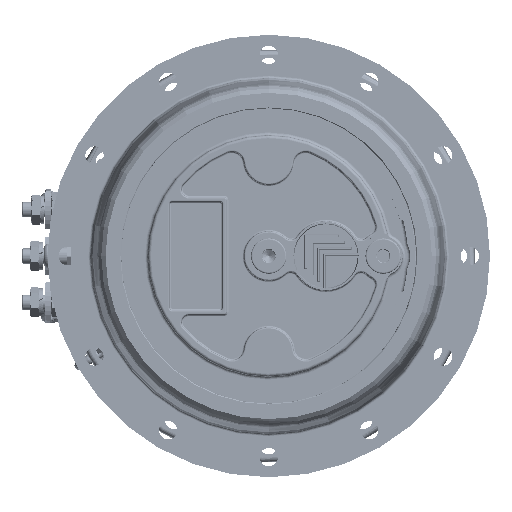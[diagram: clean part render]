
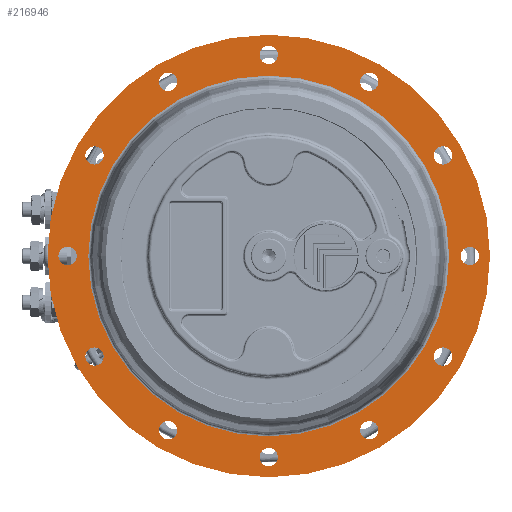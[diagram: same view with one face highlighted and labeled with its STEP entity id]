
A CAD part, left-side view. The second image highlights one B-rep face of the part: STEP entity #216946.
In plain terms, the highlighted planar face has unit normal (-1, 0, 0).
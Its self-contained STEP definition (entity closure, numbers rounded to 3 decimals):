
#5271=FACE_BOUND('',#32557,.T.);
#5272=FACE_BOUND('',#32558,.T.);
#5273=FACE_BOUND('',#32559,.T.);
#5274=FACE_BOUND('',#32560,.T.);
#5275=FACE_BOUND('',#32561,.T.);
#5276=FACE_BOUND('',#32562,.T.);
#5277=FACE_BOUND('',#32563,.T.);
#5278=FACE_BOUND('',#32564,.T.);
#5279=FACE_BOUND('',#32565,.T.);
#5280=FACE_BOUND('',#32566,.T.);
#5281=FACE_BOUND('',#32567,.T.);
#5282=FACE_BOUND('',#32568,.T.);
#5283=FACE_BOUND('',#32569,.T.);
#10367=CIRCLE('',#231062,116.6);
#10376=CIRCLE('',#231074,143.);
#10377=CIRCLE('',#231075,5.918);
#10378=CIRCLE('',#231076,5.918);
#10379=CIRCLE('',#231077,5.918);
#10380=CIRCLE('',#231078,5.918);
#10381=CIRCLE('',#231079,5.918);
#10382=CIRCLE('',#231080,5.918);
#10383=CIRCLE('',#231081,5.918);
#10384=CIRCLE('',#231082,5.918);
#10385=CIRCLE('',#231083,5.918);
#10386=CIRCLE('',#231084,5.918);
#10387=CIRCLE('',#231085,5.918);
#10388=CIRCLE('',#231086,5.918);
#20455=FACE_OUTER_BOUND('',#32556,.T.);
#32556=EDGE_LOOP('',(#141867));
#32557=EDGE_LOOP('',(#141868));
#32558=EDGE_LOOP('',(#141869));
#32559=EDGE_LOOP('',(#141870));
#32560=EDGE_LOOP('',(#141871));
#32561=EDGE_LOOP('',(#141872));
#32562=EDGE_LOOP('',(#141873));
#32563=EDGE_LOOP('',(#141874));
#32564=EDGE_LOOP('',(#141875));
#32565=EDGE_LOOP('',(#141876));
#32566=EDGE_LOOP('',(#141877));
#32567=EDGE_LOOP('',(#141878));
#32568=EDGE_LOOP('',(#141879));
#32569=EDGE_LOOP('',(#141880));
#84302=VERTEX_POINT('',#336285);
#84310=VERTEX_POINT('',#336307);
#84311=VERTEX_POINT('',#336309);
#84312=VERTEX_POINT('',#336311);
#84313=VERTEX_POINT('',#336313);
#84314=VERTEX_POINT('',#336315);
#84315=VERTEX_POINT('',#336317);
#84316=VERTEX_POINT('',#336319);
#84317=VERTEX_POINT('',#336321);
#84318=VERTEX_POINT('',#336323);
#84319=VERTEX_POINT('',#336325);
#84320=VERTEX_POINT('',#336327);
#84321=VERTEX_POINT('',#336329);
#84322=VERTEX_POINT('',#336331);
#106406=EDGE_CURVE('',#84302,#84302,#10367,.T.);
#106417=EDGE_CURVE('',#84310,#84310,#10376,.T.);
#106418=EDGE_CURVE('',#84311,#84311,#10377,.T.);
#106419=EDGE_CURVE('',#84312,#84312,#10378,.T.);
#106420=EDGE_CURVE('',#84313,#84313,#10379,.T.);
#106421=EDGE_CURVE('',#84314,#84314,#10380,.T.);
#106422=EDGE_CURVE('',#84315,#84315,#10381,.T.);
#106423=EDGE_CURVE('',#84316,#84316,#10382,.T.);
#106424=EDGE_CURVE('',#84317,#84317,#10383,.T.);
#106425=EDGE_CURVE('',#84318,#84318,#10384,.T.);
#106426=EDGE_CURVE('',#84319,#84319,#10385,.T.);
#106427=EDGE_CURVE('',#84320,#84320,#10386,.T.);
#106428=EDGE_CURVE('',#84321,#84321,#10387,.T.);
#106429=EDGE_CURVE('',#84322,#84322,#10388,.T.);
#141867=ORIENTED_EDGE('',*,*,#106417,.T.);
#141868=ORIENTED_EDGE('',*,*,#106406,.T.);
#141869=ORIENTED_EDGE('',*,*,#106418,.T.);
#141870=ORIENTED_EDGE('',*,*,#106419,.T.);
#141871=ORIENTED_EDGE('',*,*,#106420,.T.);
#141872=ORIENTED_EDGE('',*,*,#106421,.T.);
#141873=ORIENTED_EDGE('',*,*,#106422,.T.);
#141874=ORIENTED_EDGE('',*,*,#106423,.T.);
#141875=ORIENTED_EDGE('',*,*,#106424,.T.);
#141876=ORIENTED_EDGE('',*,*,#106425,.T.);
#141877=ORIENTED_EDGE('',*,*,#106426,.T.);
#141878=ORIENTED_EDGE('',*,*,#106427,.T.);
#141879=ORIENTED_EDGE('',*,*,#106428,.T.);
#141880=ORIENTED_EDGE('',*,*,#106429,.T.);
#196202=PLANE('',#231073);
#216946=ADVANCED_FACE('',(#20455,#5271,#5272,#5273,#5274,#5275,#5276,#5277,
#5278,#5279,#5280,#5281,#5282,#5283),#196202,.F.);
#231062=AXIS2_PLACEMENT_3D('',#336286,#259253,#259254);
#231073=AXIS2_PLACEMENT_3D('',#336306,#259277,#259278);
#231074=AXIS2_PLACEMENT_3D('',#336308,#259279,#259280);
#231075=AXIS2_PLACEMENT_3D('',#336310,#259281,#259282);
#231076=AXIS2_PLACEMENT_3D('',#336312,#259283,#259284);
#231077=AXIS2_PLACEMENT_3D('',#336314,#259285,#259286);
#231078=AXIS2_PLACEMENT_3D('',#336316,#259287,#259288);
#231079=AXIS2_PLACEMENT_3D('',#336318,#259289,#259290);
#231080=AXIS2_PLACEMENT_3D('',#336320,#259291,#259292);
#231081=AXIS2_PLACEMENT_3D('',#336322,#259293,#259294);
#231082=AXIS2_PLACEMENT_3D('',#336324,#259295,#259296);
#231083=AXIS2_PLACEMENT_3D('',#336326,#259297,#259298);
#231084=AXIS2_PLACEMENT_3D('',#336328,#259299,#259300);
#231085=AXIS2_PLACEMENT_3D('',#336330,#259301,#259302);
#231086=AXIS2_PLACEMENT_3D('',#336332,#259303,#259304);
#259253=DIRECTION('center_axis',(1.,0.,0.));
#259254=DIRECTION('ref_axis',(0.,0.,
1.));
#259277=DIRECTION('center_axis',(1.,0.,0.));
#259278=DIRECTION('ref_axis',(0.,0.,
1.));
#259279=DIRECTION('center_axis',(-1.,0.,0.));
#259280=DIRECTION('ref_axis',(0.,0.,
-1.));
#259281=DIRECTION('center_axis',(1.,0.,0.));
#259282=DIRECTION('ref_axis',(0.,0.,
1.));
#259283=DIRECTION('center_axis',(1.,0.,0.));
#259284=DIRECTION('ref_axis',(0.,0.5,0.866));
#259285=DIRECTION('center_axis',(1.,0.,0.));
#259286=DIRECTION('ref_axis',(0.,0.866,0.5));
#259287=DIRECTION('center_axis',(1.,0.,0.));
#259288=DIRECTION('ref_axis',(0.,1.,0.));
#259289=DIRECTION('center_axis',(1.,0.,0.));
#259290=DIRECTION('ref_axis',(0.,0.866,-0.5));
#259291=DIRECTION('center_axis',(1.,0.,0.));
#259292=DIRECTION('ref_axis',(0.,0.5,-0.866));
#259293=DIRECTION('center_axis',(1.,0.,0.));
#259294=DIRECTION('ref_axis',(0.,0.,
-1.));
#259295=DIRECTION('center_axis',(1.,0.,0.));
#259296=DIRECTION('ref_axis',(0.,-0.5,
-0.866));
#259297=DIRECTION('center_axis',(1.,0.,0.));
#259298=DIRECTION('ref_axis',(0.,-0.866,
-0.5));
#259299=DIRECTION('center_axis',(1.,0.,0.));
#259300=DIRECTION('ref_axis',(0.,-1.,0.));
#259301=DIRECTION('center_axis',(1.,0.,0.));
#259302=DIRECTION('ref_axis',(0.,-0.866,0.5));
#259303=DIRECTION('center_axis',(1.,0.,0.));
#259304=DIRECTION('ref_axis',(0.,-0.5,
0.866));
#336285=CARTESIAN_POINT('',(-341.,0.,-116.6));
#336286=CARTESIAN_POINT('Origin',(-341.,0.,0.));
#336306=CARTESIAN_POINT('Origin',(-341.,-143.,0.));
#336307=CARTESIAN_POINT('',(-341.,0.,143.));
#336308=CARTESIAN_POINT('Origin',(-341.,0.,0.));
#336309=CARTESIAN_POINT('',(-341.,0.,124.083));
#336310=CARTESIAN_POINT('Origin',(-341.,0.,130.));
#336311=CARTESIAN_POINT('',(-341.,62.041,107.459));
#336312=CARTESIAN_POINT('Origin',(-341.,65.,112.583));
#336313=CARTESIAN_POINT('',(-341.,107.459,62.041));
#336314=CARTESIAN_POINT('Origin',(-341.,112.583,65.));
#336315=CARTESIAN_POINT('',(-341.,124.083,0.));
#336316=CARTESIAN_POINT('Origin',(-341.,130.,0.));
#336317=CARTESIAN_POINT('',(-341.,107.459,-62.041));
#336318=CARTESIAN_POINT('Origin',(-341.,112.583,-65.));
#336319=CARTESIAN_POINT('',(-341.,62.041,-107.459));
#336320=CARTESIAN_POINT('Origin',(-341.,65.,-112.583));
#336321=CARTESIAN_POINT('',(-341.,0.,-124.083));
#336322=CARTESIAN_POINT('Origin',(-341.,0.,-130.));
#336323=CARTESIAN_POINT('',(-341.,-62.041,-107.459));
#336324=CARTESIAN_POINT('Origin',(-341.,-65.,-112.583));
#336325=CARTESIAN_POINT('',(-341.,-107.459,-62.041));
#336326=CARTESIAN_POINT('Origin',(-341.,-112.583,-65.));
#336327=CARTESIAN_POINT('',(-341.,-124.082,0.));
#336328=CARTESIAN_POINT('Origin',(-341.,-130.,0.));
#336329=CARTESIAN_POINT('',(-341.,-107.459,62.041));
#336330=CARTESIAN_POINT('Origin',(-341.,-112.583,65.));
#336331=CARTESIAN_POINT('',(-341.,-62.041,107.459));
#336332=CARTESIAN_POINT('Origin',(-341.,-65.,112.583));
